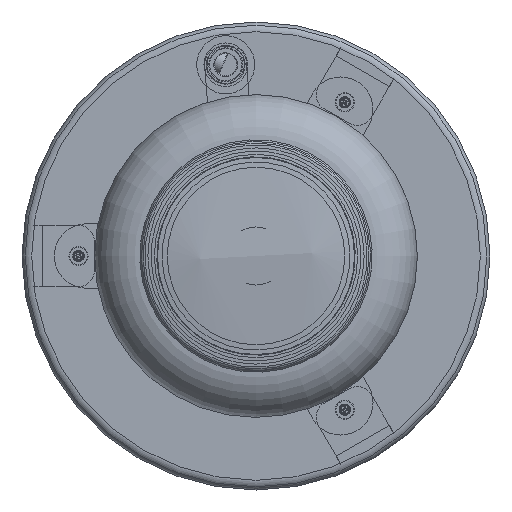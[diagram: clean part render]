
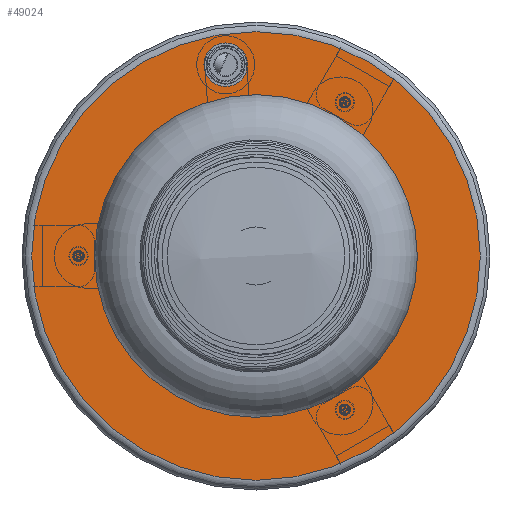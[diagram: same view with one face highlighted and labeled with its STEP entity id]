
A CAD part, front view. The second image highlights one B-rep face of the part: STEP entity #49024.
In plain terms, the highlighted planar face has unit normal (0, -1, 0).
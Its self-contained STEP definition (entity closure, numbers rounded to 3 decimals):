
#3831=FACE_BOUND('',#9758,.T.);
#3832=FACE_BOUND('',#9759,.T.);
#3833=FACE_BOUND('',#9760,.T.);
#3834=FACE_BOUND('',#9761,.T.);
#4769=PLANE('',#54363);
#6921=FACE_OUTER_BOUND('',#9757,.T.);
#9757=EDGE_LOOP('',(#40547));
#9758=EDGE_LOOP('',(#40548));
#9759=EDGE_LOOP('',(#40549));
#9760=EDGE_LOOP('',(#40550));
#9761=EDGE_LOOP('',(#40551));
#12137=CIRCLE('',#54346,1.485);
#12138=CIRCLE('',#54348,6.75);
#12140=CIRCLE('',#54351,2.5);
#12142=CIRCLE('',#54354,3.9);
#12147=CIRCLE('',#54361,69.5);
#23552=VERTEX_POINT('',#79518);
#23553=VERTEX_POINT('',#79522);
#23555=VERTEX_POINT('',#79528);
#23557=VERTEX_POINT('',#79534);
#23562=VERTEX_POINT('',#79548);
#29596=EDGE_CURVE('',#23552,#23552,#12137,.T.);
#29597=EDGE_CURVE('',#23553,#23553,#12138,.T.);
#29600=EDGE_CURVE('',#23555,#23555,#12140,.T.);
#29603=EDGE_CURVE('',#23557,#23557,#12142,.T.);
#29610=EDGE_CURVE('',#23562,#23562,#12147,.T.);
#40547=ORIENTED_EDGE('',*,*,#29610,.T.);
#40548=ORIENTED_EDGE('',*,*,#29596,.T.);
#40549=ORIENTED_EDGE('',*,*,#29597,.T.);
#40550=ORIENTED_EDGE('',*,*,#29600,.T.);
#40551=ORIENTED_EDGE('',*,*,#29603,.T.);
#49024=ADVANCED_FACE('',(#6921,#3831,#3832,#3833,#3834),#4769,.T.);
#54346=AXIS2_PLACEMENT_3D('',#79520,#64512,#64513);
#54348=AXIS2_PLACEMENT_3D('',#79523,#64516,#64517);
#54351=AXIS2_PLACEMENT_3D('',#79529,#64523,#64524);
#54354=AXIS2_PLACEMENT_3D('',#79535,#64530,#64531);
#54361=AXIS2_PLACEMENT_3D('',#79549,#64546,#64547);
#54363=AXIS2_PLACEMENT_3D('',#79551,#64550,#64551);
#64512=DIRECTION('center_axis',(0.,1.,0.));
#64513=DIRECTION('ref_axis',(1.,0.,0.));
#64516=DIRECTION('center_axis',(0.,1.,0.));
#64517=DIRECTION('ref_axis',(1.,0.,0.));
#64523=DIRECTION('center_axis',(0.,1.,0.));
#64524=DIRECTION('ref_axis',(1.,0.,0.));
#64530=DIRECTION('center_axis',(0.,1.,0.));
#64531=DIRECTION('ref_axis',(1.,0.,0.));
#64546=DIRECTION('center_axis',(0.,-1.,0.));
#64547=DIRECTION('ref_axis',(1.,0.,0.));
#64550=DIRECTION('center_axis',(0.,-1.,0.));
#64551=DIRECTION('ref_axis',(0.,0.,-1.));
#79518=CARTESIAN_POINT('',(33.589,0.,-20.25));
#79520=CARTESIAN_POINT('Origin',(35.074,0.,-20.25));
#79522=CARTESIAN_POINT('',(-62.765,0.,21.502));
#79523=CARTESIAN_POINT('Origin',(-56.015,0.,
21.502));
#79528=CARTESIAN_POINT('',(15.,0.,0.));
#79529=CARTESIAN_POINT('Origin',(17.5,0.,0.));
#79534=CARTESIAN_POINT('',(-3.9,0.,0.));
#79535=CARTESIAN_POINT('Origin',(0.,0.,0.));
#79548=CARTESIAN_POINT('',(0.,0.,69.5));
#79549=CARTESIAN_POINT('Origin',(0.,0.,
0.));
#79551=CARTESIAN_POINT('Origin',(0.,0.,0.));
